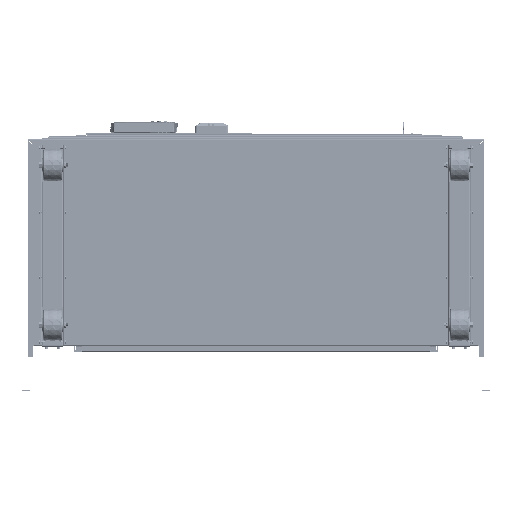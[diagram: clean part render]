
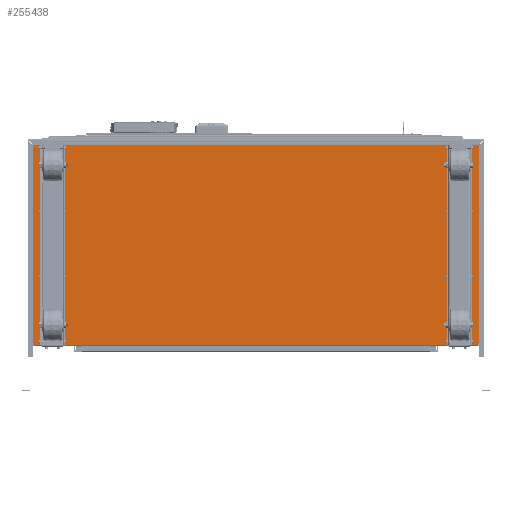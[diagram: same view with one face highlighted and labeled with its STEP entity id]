
A CAD part, front view. The second image highlights one B-rep face of the part: STEP entity #255438.
In plain terms, the highlighted planar face has unit normal (0, -1, 0).
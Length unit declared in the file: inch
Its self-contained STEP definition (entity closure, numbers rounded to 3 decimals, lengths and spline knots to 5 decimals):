
#1896 = CARTESIAN_POINT ( 'NONE',  ( 20.85803, -10., 6.75079 ) ) ;
#7773 = DIRECTION ( 'NONE',  ( 1., 0., 0. ) ) ;
#16037 = ORIENTED_EDGE ( 'NONE', *, *, #104221, .F. ) ;
#16525 = VERTEX_POINT ( 'NONE', #227857 ) ;
#20191 = EDGE_CURVE ( 'NONE', #225336, #239001, #33422, .T. ) ;
#27483 = LINE ( 'NONE', #1896, #293623 ) ;
#28994 = ORIENTED_EDGE ( 'NONE', *, *, #298787, .T. ) ;
#29567 = DIRECTION ( 'NONE',  ( -1., 0., 0. ) ) ;
#29991 = ORIENTED_EDGE ( 'NONE', *, *, #117904, .T. ) ;
#32253 = CARTESIAN_POINT ( 'NONE',  ( -20.85803, -10., 6.75079 ) ) ;
#33422 = LINE ( 'NONE', #342191, #161888 ) ;
#43908 = CARTESIAN_POINT ( 'NONE',  ( -20.85803, -10., -13.85132 ) ) ;
#53181 = LINE ( 'NONE', #323123, #190290 ) ;
#54832 = CARTESIAN_POINT ( 'NONE',  ( 20.85803, -10., 4.89313 ) ) ;
#56756 = CARTESIAN_POINT ( 'NONE',  ( 20.88642, -10., 4.86473 ) ) ;
#57083 = VERTEX_POINT ( 'NONE', #54832 ) ;
#58453 = ORIENTED_EDGE ( 'NONE', *, *, #212998, .T. ) ;
#59938 = DIRECTION ( 'NONE',  ( 0., 0., -1. ) ) ;
#60564 = LINE ( 'NONE', #117953, #262194 ) ;
#62116 = CARTESIAN_POINT ( 'NONE',  ( -20.85803, -10., -13.87971 ) ) ;
#68614 = DIRECTION ( 'NONE',  ( 0., 0., -1. ) ) ;
#69337 = ORIENTED_EDGE ( 'NONE', *, *, #112209, .F. ) ;
#74709 = CARTESIAN_POINT ( 'NONE',  ( 20.85803, -10., 6.75079 ) ) ;
#80796 = DIRECTION ( 'NONE',  ( -1., 0., 0. ) ) ;
#82803 = VECTOR ( 'NONE', #218272, 39.37008 ) ;
#92194 = VECTOR ( 'NONE', #7773, 39.37008 ) ;
#100801 = LINE ( 'NONE', #253892, #92194 ) ;
#102203 = DIRECTION ( 'NONE',  ( 0., 0., 1. ) ) ;
#104221 = EDGE_CURVE ( 'NONE', #16525, #269892, #178951, .T. ) ;
#108977 = VERTEX_POINT ( 'NONE', #318158 ) ;
#112209 = EDGE_CURVE ( 'NONE', #225336, #57083, #100801, .T. ) ;
#112841 = ORIENTED_EDGE ( 'NONE', *, *, #251435, .F. ) ;
#117904 = EDGE_CURVE ( 'NONE', #16525, #295502, #27483, .T. ) ;
#117953 = CARTESIAN_POINT ( 'NONE',  ( -18.81803, -10., -13.82007 ) ) ;
#126745 = LINE ( 'NONE', #272852, #337366 ) ;
#128677 = CARTESIAN_POINT ( 'NONE',  ( 41.71625, -10., -13.87971 ) ) ;
#129684 = AXIS2_PLACEMENT_3D ( 'NONE', #227165, #171920, #282554 ) ;
#135693 = ORIENTED_EDGE ( 'NONE', *, *, #324644, .T. ) ;
#139475 = EDGE_CURVE ( 'NONE', #261153, #240746, #53181, .T. ) ;
#139809 = CARTESIAN_POINT ( 'NONE',  ( -18.81803, -10., 4.86473 ) ) ;
#150101 = LINE ( 'NONE', #32253, #287697 ) ;
#150354 = VECTOR ( 'NONE', #317475, 39.37008 ) ;
#152792 = CARTESIAN_POINT ( 'NONE',  ( -20.88642, -10., -23.20978 ) ) ;
#154270 = VERTEX_POINT ( 'NONE', #43908 ) ;
#158922 = LINE ( 'NONE', #152792, #150354 ) ;
#161888 = VECTOR ( 'NONE', #68614, 39.37008 ) ;
#171920 = DIRECTION ( 'NONE',  ( 0., -1., 0. ) ) ;
#174584 = EDGE_CURVE ( 'NONE', #261153, #273536, #126745, .T. ) ;
#178951 = LINE ( 'NONE', #128677, #355211 ) ;
#185778 = ORIENTED_EDGE ( 'NONE', *, *, #346355, .T. ) ;
#187663 = EDGE_LOOP ( 'NONE', ( #58453, #221178, #287382, #28994, #69337, #254465, #185778, #112841, #332640, #135693, #16037, #29991 ) ) ;
#190290 = VECTOR ( 'NONE', #350764, 39.37008 ) ;
#197042 = CARTESIAN_POINT ( 'NONE',  ( -20.88642, -10., -13.85132 ) ) ;
#204465 = VECTOR ( 'NONE', #102203, 39.37008 ) ;
#207226 = VECTOR ( 'NONE', #29567, 39.37008 ) ;
#212998 = EDGE_CURVE ( 'NONE', #295502, #240746, #60564, .T. ) ;
#218272 = DIRECTION ( 'NONE',  ( 1., 0., 0. ) ) ;
#221178 = ORIENTED_EDGE ( 'NONE', *, *, #139475, .F. ) ;
#225336 = VERTEX_POINT ( 'NONE', #256176 ) ;
#226263 = FACE_OUTER_BOUND ( 'NONE', #187663, .T. ) ;
#227165 = CARTESIAN_POINT ( 'NONE',  ( -18.81803, -10., 6.75079 ) ) ;
#227857 = CARTESIAN_POINT ( 'NONE',  ( 20.85803, -10., -13.87971 ) ) ;
#228681 = LINE ( 'NONE', #244801, #82803 ) ;
#239001 = VERTEX_POINT ( 'NONE', #284864 ) ;
#240746 = VERTEX_POINT ( 'NONE', #259342 ) ;
#242627 = DIRECTION ( 'NONE',  ( -1., 0., 0. ) ) ;
#244801 = CARTESIAN_POINT ( 'NONE',  ( -18.81803, -10., -13.85132 ) ) ;
#251435 = EDGE_CURVE ( 'NONE', #339609, #108977, #158922, .T. ) ;
#253892 = CARTESIAN_POINT ( 'NONE',  ( -41.71625, -10., 4.89313 ) ) ;
#254465 = ORIENTED_EDGE ( 'NONE', *, *, #20191, .T. ) ;
#254906 = PLANE ( 'NONE',  #129684 ) ;
#255438 = ADVANCED_FACE ( 'NONE', ( #226263 ), #254906, .T. ) ;
#256176 = CARTESIAN_POINT ( 'NONE',  ( -20.85803, -10., 4.89313 ) ) ;
#259342 = CARTESIAN_POINT ( 'NONE',  ( 20.88642, -10., -13.82007 ) ) ;
#261153 = VERTEX_POINT ( 'NONE', #56756 ) ;
#262194 = VECTOR ( 'NONE', #310069, 39.37008 ) ;
#263327 = CARTESIAN_POINT ( 'NONE',  ( 20.85803, -10., 4.86473 ) ) ;
#269892 = VERTEX_POINT ( 'NONE', #62116 ) ;
#272852 = CARTESIAN_POINT ( 'NONE',  ( -18.81803, -10., 4.86473 ) ) ;
#273536 = VERTEX_POINT ( 'NONE', #263327 ) ;
#274185 = EDGE_CURVE ( 'NONE', #339609, #154270, #228681, .T. ) ;
#282554 = DIRECTION ( 'NONE',  ( 0., 0., -1. ) ) ;
#284864 = CARTESIAN_POINT ( 'NONE',  ( -20.85803, -10., 4.86473 ) ) ;
#287382 = ORIENTED_EDGE ( 'NONE', *, *, #174584, .T. ) ;
#287697 = VECTOR ( 'NONE', #59938, 39.37008 ) ;
#293623 = VECTOR ( 'NONE', #304361, 39.37008 ) ;
#295502 = VERTEX_POINT ( 'NONE', #313810 ) ;
#298787 = EDGE_CURVE ( 'NONE', #273536, #57083, #350718, .T. ) ;
#304361 = DIRECTION ( 'NONE',  ( 0., 0., 1. ) ) ;
#310069 = DIRECTION ( 'NONE',  ( 1., 0., 0. ) ) ;
#313810 = CARTESIAN_POINT ( 'NONE',  ( 20.85803, -10., -13.82007 ) ) ;
#317475 = DIRECTION ( 'NONE',  ( 0., 0., 1. ) ) ;
#318158 = CARTESIAN_POINT ( 'NONE',  ( -20.88642, -10., 4.86473 ) ) ;
#323123 = CARTESIAN_POINT ( 'NONE',  ( 20.88642, -10., 14.20757 ) ) ;
#324644 = EDGE_CURVE ( 'NONE', #154270, #269892, #150101, .T. ) ;
#332640 = ORIENTED_EDGE ( 'NONE', *, *, #274185, .T. ) ;
#337366 = VECTOR ( 'NONE', #80796, 39.37008 ) ;
#339609 = VERTEX_POINT ( 'NONE', #197042 ) ;
#342191 = CARTESIAN_POINT ( 'NONE',  ( -20.85803, -10., 6.75079 ) ) ;
#346355 = EDGE_CURVE ( 'NONE', #239001, #108977, #353503, .T. ) ;
#350718 = LINE ( 'NONE', #74709, #204465 ) ;
#350764 = DIRECTION ( 'NONE',  ( 0., 0., -1. ) ) ;
#353503 = LINE ( 'NONE', #139809, #207226 ) ;
#355211 = VECTOR ( 'NONE', #242627, 39.37008 ) ;
